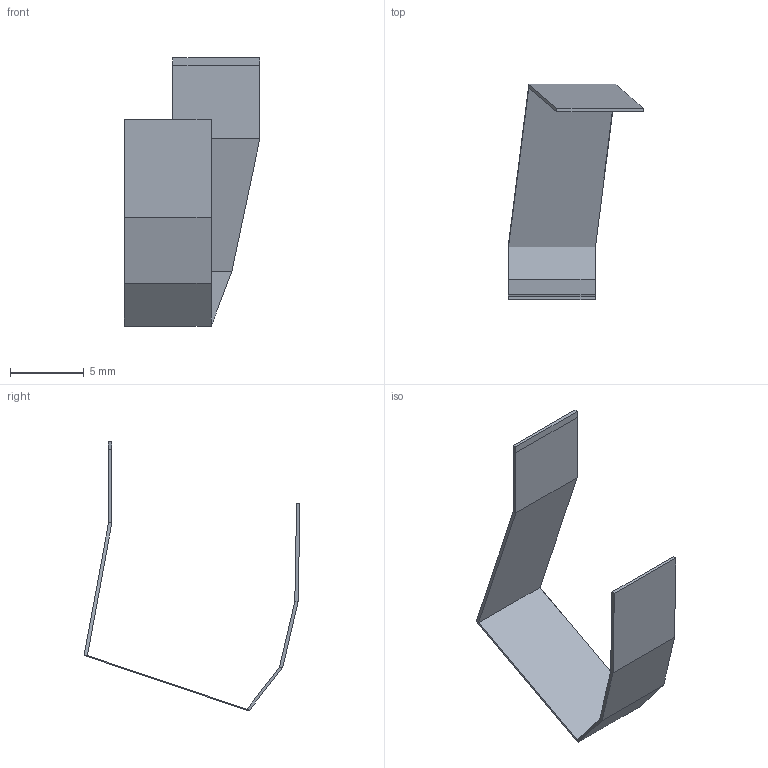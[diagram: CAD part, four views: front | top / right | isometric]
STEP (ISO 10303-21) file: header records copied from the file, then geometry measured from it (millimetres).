
FILE_DESCRIPTION(('Open CASCADE Model'),'2;1');
FILE_NAME('ov5647-camera-fpc.step','2026-11-14T14:31:51',('Author'),( 'Open CASCADE'),'Open CASCADE STEP processor 8.0','Open CASCADE 8.0' ,'Unknown');
FILE_SCHEMA(('AP242_MANAGED_MODEL_BASED_3D_ENGINEERING_MIM_LF {1 0 10303 442 1 1 4 }' ));
Length unit declared in the file: millimetre
Products named in the file (1): OV5647 Camera FPC
Bounding box: 9.2 x 14.65 x 18.2 mm (x, y, z)
Volume: 5.6 mm3; surface area: 503.9 mm2
Topology: 1 solids, 1 shells, 30 faces, 60 edges, 32 vertices
Faces by surface type: plane 16, bspline 14
Entity records: 1475 total; most frequent: CARTESIAN_POINT 341, DIRECTION 158, LINE 124, VECTOR 124, ORIENTED_EDGE 120, PCURVE 120, DEFINITIONAL_REPRESENTATION 120, EDGE_CURVE 60
